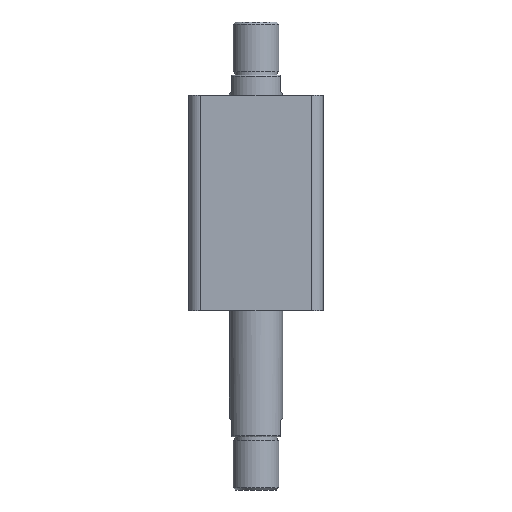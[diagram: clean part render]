
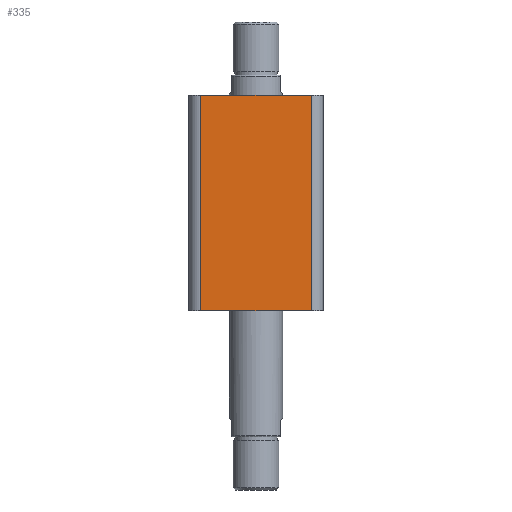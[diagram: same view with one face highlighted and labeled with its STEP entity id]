
A CAD part, front view. The second image highlights one B-rep face of the part: STEP entity #335.
In plain terms, the highlighted planar face has unit normal (0, -1, 0).
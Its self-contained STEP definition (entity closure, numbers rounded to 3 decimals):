
#172 = ORIENTED_EDGE ( 'NONE', *, *, #1781, .T. ) ;
#173 = ORIENTED_EDGE ( 'NONE', *, *, #1782, .T. ) ;
#174 = ORIENTED_EDGE ( 'NONE', *, *, #1783, .F. ) ;
#175 = ORIENTED_EDGE ( 'NONE', *, *, #1784, .T. ) ;
#335 = ADVANCED_FACE ( 'NONE', ( #2235 ), #887, .F. ) ;
#376 = CARTESIAN_POINT ( 'NONE',  ( 47., -57., 183. ) ) ;
#397 = CARTESIAN_POINT ( 'NONE',  ( -57., -57., 0. ) ) ;
#398 = DIRECTION ( 'NONE',  ( 1., 0., 0. ) ) ;
#399 = DIRECTION ( 'NONE',  ( 0., 0., 1. ) ) ;
#400 = CARTESIAN_POINT ( 'NONE',  ( -57., -57., 183. ) ) ;
#401 = DIRECTION ( 'NONE',  ( 1., 0., 0. ) ) ;
#402 = CARTESIAN_POINT ( 'NONE',  ( -47., -57., 183. ) ) ;
#403 = DIRECTION ( 'NONE',  ( 0., 0., -1. ) ) ;
#885 = CARTESIAN_POINT ( 'NONE',  ( -57., -57., 183. ) ) ;
#887 = PLANE ( 'NONE',  #1976 ) ;
#889 = DIRECTION ( 'NONE',  ( 0., 1., 0. ) ) ;
#890 = DIRECTION ( 'NONE',  ( 0., 0., 1. ) ) ;
#1404 = CARTESIAN_POINT ( 'NONE',  ( -47., -57., 183. ) ) ;
#1405 = CARTESIAN_POINT ( 'NONE',  ( 47., -57., 0. ) ) ;
#1406 = CARTESIAN_POINT ( 'NONE',  ( 47., -57., 183. ) ) ;
#1417 = CARTESIAN_POINT ( 'NONE',  ( -47., -57., 0. ) ) ;
#1781 = EDGE_CURVE ( 'NONE', #3360, #3211, #2481, .T. ) ;
#1782 = EDGE_CURVE ( 'NONE', #3211, #3213, #2475, .T. ) ;
#1783 = EDGE_CURVE ( 'NONE', #3212, #3213, #2485, .T. ) ;
#1784 = EDGE_CURVE ( 'NONE', #3212, #3360, #2487, .T. ) ;
#1976 = AXIS2_PLACEMENT_3D ( 'NONE', #885, #889, #890 ) ;
#2235 = FACE_OUTER_BOUND ( 'NONE', #3284, .T. ) ;
#2475 = LINE ( 'NONE', #376, #2486 ) ;
#2481 = LINE ( 'NONE', #397, #2484 ) ;
#2484 = VECTOR ( 'NONE', #398, 1000. ) ;
#2485 = LINE ( 'NONE', #400, #2488 ) ;
#2486 = VECTOR ( 'NONE', #399, 1000. ) ;
#2487 = LINE ( 'NONE', #402, #2490 ) ;
#2488 = VECTOR ( 'NONE', #401, 1000. ) ;
#2490 = VECTOR ( 'NONE', #403, 1000. ) ;
#3211 = VERTEX_POINT ( 'NONE', #1405 ) ;
#3212 = VERTEX_POINT ( 'NONE', #1404 ) ;
#3213 = VERTEX_POINT ( 'NONE', #1406 ) ;
#3284 = EDGE_LOOP ( 'NONE', ( #172, #173, #174, #175 ) ) ;
#3360 = VERTEX_POINT ( 'NONE', #1417 ) ;
